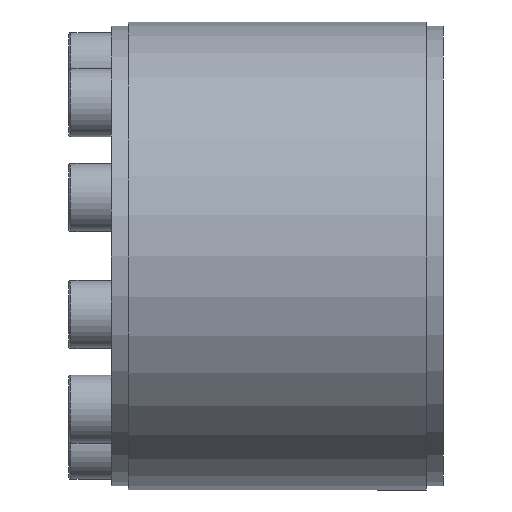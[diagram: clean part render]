
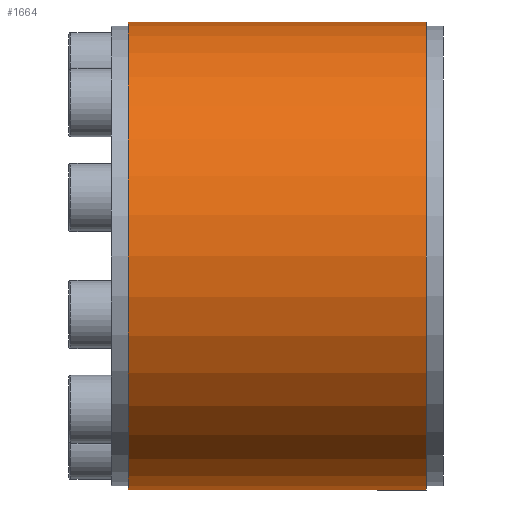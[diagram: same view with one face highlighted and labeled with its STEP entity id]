
A CAD part, left-side view. The second image highlights one B-rep face of the part: STEP entity #1664.
In plain terms, the highlighted cylindrical face has radius 55 mm (diameter 110 mm), a partial arc.
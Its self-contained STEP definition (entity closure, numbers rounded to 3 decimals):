
#344 = ORIENTED_EDGE ( 'NONE', *, *, #1411, .F. ) ;
#389 = EDGE_CURVE ( 'NONE', #3093, #1712, #1603, .T. ) ;
#421 = VERTEX_POINT ( 'NONE', #1266 ) ;
#786 = DIRECTION ( 'NONE',  ( 0., 0., -1. ) ) ;
#798 = AXIS2_PLACEMENT_3D ( 'NONE', #1630, #3694, #786 ) ;
#842 = CIRCLE ( 'NONE', #798, 55. ) ;
#987 = ORIENTED_EDGE ( 'NONE', *, *, #2139, .T. ) ;
#1056 = AXIS2_PLACEMENT_3D ( 'NONE', #2531, #1271, #3331 ) ;
#1094 = VERTEX_POINT ( 'NONE', #2929 ) ;
#1132 = DIRECTION ( 'NONE',  ( 0., -1., 0. ) ) ;
#1266 = CARTESIAN_POINT ( 'NONE',  ( 0., -35., -55. ) ) ;
#1271 = DIRECTION ( 'NONE',  ( 0., -1., 0. ) ) ;
#1343 = CARTESIAN_POINT ( 'NONE',  ( 0., 0., -55. ) ) ;
#1411 = EDGE_CURVE ( 'NONE', #1712, #421, #842, .T. ) ;
#1437 = EDGE_CURVE ( 'NONE', #1094, #421, #2538, .T. ) ;
#1603 = LINE ( 'NONE', #3558, #3066 ) ;
#1630 = CARTESIAN_POINT ( 'NONE',  ( 0., -35., 0. ) ) ;
#1664 = ADVANCED_FACE ( 'NONE', ( #2491 ), #2104, .T. ) ;
#1712 = VERTEX_POINT ( 'NONE', #2026 ) ;
#1721 = CARTESIAN_POINT ( 'NONE',  ( 0., 0., 0. ) ) ;
#1735 = DIRECTION ( 'NONE',  ( 0., 0., -1. ) ) ;
#2026 = CARTESIAN_POINT ( 'NONE',  ( 0., -35., 55. ) ) ;
#2028 = ORIENTED_EDGE ( 'NONE', *, *, #1437, .T. ) ;
#2104 = CYLINDRICAL_SURFACE ( 'NONE', #2834, 55. ) ;
#2139 = EDGE_CURVE ( 'NONE', #3093, #1094, #3633, .T. ) ;
#2491 = FACE_OUTER_BOUND ( 'NONE', #2621, .T. ) ;
#2531 = CARTESIAN_POINT ( 'NONE',  ( 0., 35., 0. ) ) ;
#2538 = LINE ( 'NONE', #1343, #3470 ) ;
#2621 = EDGE_LOOP ( 'NONE', ( #3030, #987, #2028, #344 ) ) ;
#2826 = DIRECTION ( 'NONE',  ( 0., -1., 0. ) ) ;
#2834 = AXIS2_PLACEMENT_3D ( 'NONE', #1721, #1132, #1735 ) ;
#2929 = CARTESIAN_POINT ( 'NONE',  ( 0., 35., -55. ) ) ;
#2989 = DIRECTION ( 'NONE',  ( 0., -1., 0. ) ) ;
#3030 = ORIENTED_EDGE ( 'NONE', *, *, #389, .F. ) ;
#3045 = CARTESIAN_POINT ( 'NONE',  ( 0., 35., 55. ) ) ;
#3066 = VECTOR ( 'NONE', #2989, 1000. ) ;
#3093 = VERTEX_POINT ( 'NONE', #3045 ) ;
#3331 = DIRECTION ( 'NONE',  ( 0., 0., -1. ) ) ;
#3470 = VECTOR ( 'NONE', #2826, 1000. ) ;
#3558 = CARTESIAN_POINT ( 'NONE',  ( 0., 0., 55. ) ) ;
#3633 = CIRCLE ( 'NONE', #1056, 55. ) ;
#3694 = DIRECTION ( 'NONE',  ( 0., -1., 0. ) ) ;
